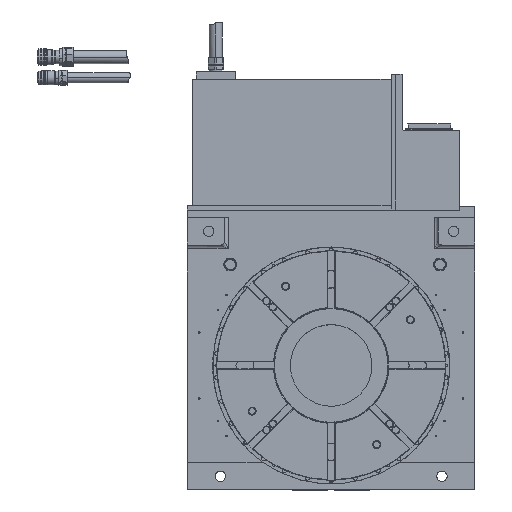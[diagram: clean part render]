
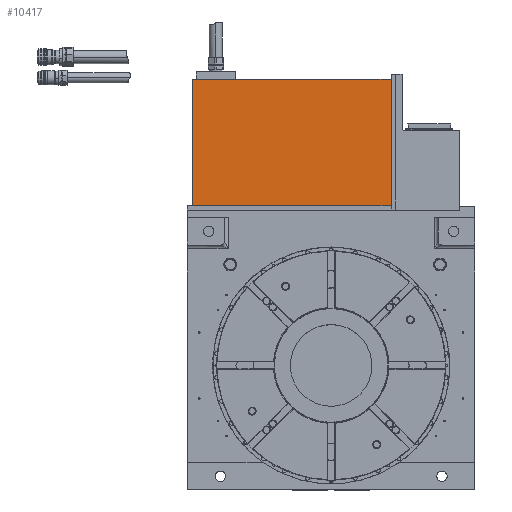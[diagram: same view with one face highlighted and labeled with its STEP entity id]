
A CAD part, top view. The second image highlights one B-rep face of the part: STEP entity #10417.
In plain terms, the highlighted planar face has unit normal (0, 0, 1).
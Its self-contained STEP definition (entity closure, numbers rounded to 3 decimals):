
#140 = VECTOR ( 'NONE', #13433, 1000. ) ;
#789 = VECTOR ( 'NONE', #24555, 1000. ) ;
#1941 = DIRECTION ( 'NONE',  ( -1., 0., 0. ) ) ;
#2269 = VERTEX_POINT ( 'NONE', #28070 ) ;
#2619 = ORIENTED_EDGE ( 'NONE', *, *, #18723, .F. ) ;
#2763 = ORIENTED_EDGE ( 'NONE', *, *, #10066, .T. ) ;
#3155 = ORIENTED_EDGE ( 'NONE', *, *, #16911, .T. ) ;
#3616 = FACE_OUTER_BOUND ( 'NONE', #36442, .T. ) ;
#4035 = ORIENTED_EDGE ( 'NONE', *, *, #17151, .T. ) ;
#4297 = VERTEX_POINT ( 'NONE', #35359 ) ;
#6036 = PLANE ( 'NONE',  #8998 ) ;
#6798 = VECTOR ( 'NONE', #13488, 1000. ) ;
#7361 = LINE ( 'NONE', #13243, #140 ) ;
#8641 = VERTEX_POINT ( 'NONE', #24925 ) ;
#8666 = DIRECTION ( 'NONE',  ( 0., 1., 0. ) ) ;
#8998 = AXIS2_PLACEMENT_3D ( 'NONE', #20601, #34293, #20423 ) ;
#9959 = LINE ( 'NONE', #10130, #789 ) ;
#10066 = EDGE_CURVE ( 'NONE', #8641, #4297, #7361, .T. ) ;
#10130 = CARTESIAN_POINT ( 'NONE',  ( 154., 411., 107. ) ) ;
#10417 = ADVANCED_FACE ( 'NONE', ( #3616 ), #6036, .T. ) ;
#10498 = EDGE_CURVE ( 'NONE', #26597, #20269, #21318, .T. ) ;
#13243 = CARTESIAN_POINT ( 'NONE',  ( -357., 411., 107. ) ) ;
#13401 = CARTESIAN_POINT ( 'NONE',  ( -246., 736., 107. ) ) ;
#13433 = DIRECTION ( 'NONE',  ( 0., -1., 0. ) ) ;
#13488 = DIRECTION ( 'NONE',  ( 0., 1., 0. ) ) ;
#14208 = LINE ( 'NONE', #22343, #6798 ) ;
#14540 = CARTESIAN_POINT ( 'NONE',  ( 154., 411., 107. ) ) ;
#14885 = VECTOR ( 'NONE', #1941, 1000. ) ;
#15350 = CARTESIAN_POINT ( 'NONE',  ( -357., 736., 107. ) ) ;
#16911 = EDGE_CURVE ( 'NONE', #4297, #2269, #9959, .T. ) ;
#17151 = EDGE_CURVE ( 'NONE', #2269, #26597, #23593, .T. ) ;
#18678 = EDGE_CURVE ( 'NONE', #8641, #26344, #29418, .T. ) ;
#18723 = EDGE_CURVE ( 'NONE', #26344, #20269, #14208, .T. ) ;
#20269 = VERTEX_POINT ( 'NONE', #29552 ) ;
#20423 = DIRECTION ( 'NONE',  ( 1., 0., 0. ) ) ;
#20601 = CARTESIAN_POINT ( 'NONE',  ( 154., 411., 107. ) ) ;
#21318 = LINE ( 'NONE', #32980, #14885 ) ;
#22343 = CARTESIAN_POINT ( 'NONE',  ( -246., 736., 107. ) ) ;
#23593 = LINE ( 'NONE', #14540, #28516 ) ;
#24555 = DIRECTION ( 'NONE',  ( 1., 0., 0. ) ) ;
#24925 = CARTESIAN_POINT ( 'NONE',  ( -357., 736., 107. ) ) ;
#26344 = VERTEX_POINT ( 'NONE', #13401 ) ;
#26597 = VERTEX_POINT ( 'NONE', #34812 ) ;
#26625 = DIRECTION ( 'NONE',  ( 1., 0., 0. ) ) ;
#26753 = ORIENTED_EDGE ( 'NONE', *, *, #10498, .T. ) ;
#28070 = CARTESIAN_POINT ( 'NONE',  ( 154., 411., 107. ) ) ;
#28516 = VECTOR ( 'NONE', #8666, 1000. ) ;
#29418 = LINE ( 'NONE', #15350, #33346 ) ;
#29552 = CARTESIAN_POINT ( 'NONE',  ( -246., 737., 107. ) ) ;
#32980 = CARTESIAN_POINT ( 'NONE',  ( 154., 737., 107. ) ) ;
#33346 = VECTOR ( 'NONE', #26625, 1000. ) ;
#33577 = ORIENTED_EDGE ( 'NONE', *, *, #18678, .F. ) ;
#34293 = DIRECTION ( 'NONE',  ( 0., 0., 1. ) ) ;
#34812 = CARTESIAN_POINT ( 'NONE',  ( 154., 737., 107. ) ) ;
#35359 = CARTESIAN_POINT ( 'NONE',  ( -357., 411., 107. ) ) ;
#36442 = EDGE_LOOP ( 'NONE', ( #2619, #33577, #2763, #3155, #4035, #26753 ) ) ;
